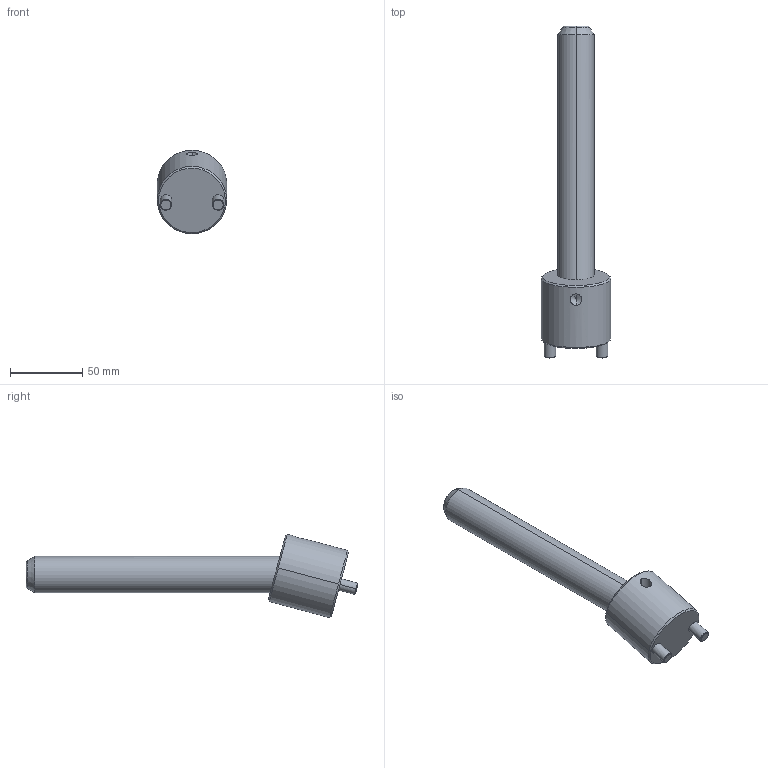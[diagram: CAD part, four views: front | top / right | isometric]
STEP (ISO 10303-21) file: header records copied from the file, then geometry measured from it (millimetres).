
FILE_DESCRIPTION(('CATIA V5 STEP Exchange'),'2;1');
FILE_NAME('C:\Users\Raffaele\Desktop\3D BOLEX\3D FILES CF BOLEX\19-INCLINED ASSEMBLY REF_CI\CI1525175.stp','2019-06-21T14:20:34+00:00',('none'),('none'),'CATIA Version 5 Release 20 GA (IN-10)','CATIA V5 STEP AP203','none');
FILE_SCHEMA(('CONFIG_CONTROL_DESIGN'));
Length unit declared in the file: millimetre
Products named in the file (1): CI1525175
Assembly tree (2 placements, depth 2):
  CI1525175
    #58
    #608
Bounding box: 48 x 229.26 x 57.49 mm (x, y, z)
Volume: 165023.2 mm3; surface area: 31311.7 mm2
Topology: 2 solids, 2 shells, 39 faces, 82 edges, 47 vertices
Faces by surface type: cone 14, cylinder 14, plane 7, torus 4
Entity records: 1530 total; most frequent: CARTESIAN_POINT 669, ORIENTED_EDGE 160, DIRECTION 146, EDGE_CURVE 80, AXIS2_PLACEMENT_3D 73, VERTEX_POINT 47, EDGE_LOOP 43, ADVANCED_FACE 39
